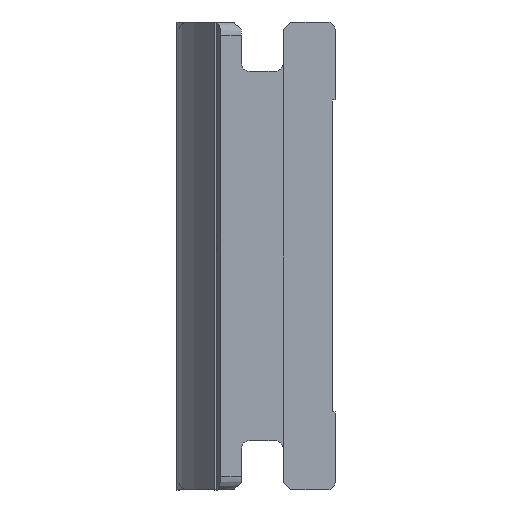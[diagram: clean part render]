
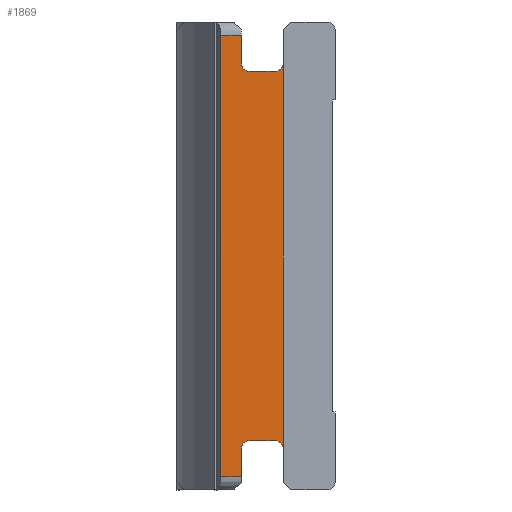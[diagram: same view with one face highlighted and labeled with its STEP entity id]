
A CAD part, left-side view. The second image highlights one B-rep face of the part: STEP entity #1869.
In plain terms, the highlighted planar face has unit normal (-1, 0, 0).
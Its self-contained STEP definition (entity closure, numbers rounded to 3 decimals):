
#16 = AXIS2_PLACEMENT_3D ( 'NONE', #1744, #693, #1716 ) ;
#27 = DIRECTION ( 'NONE',  ( 0., 1., 0. ) ) ;
#46 = CARTESIAN_POINT ( 'NONE',  ( 10., 3.2, 7.1 ) ) ;
#84 = DIRECTION ( 'NONE',  ( 0., 0., 1. ) ) ;
#89 = LINE ( 'NONE', #1562, #1750 ) ;
#90 = ORIENTED_EDGE ( 'NONE', *, *, #1871, .F. ) ;
#146 = LINE ( 'NONE', #441, #690 ) ;
#170 = ORIENTED_EDGE ( 'NONE', *, *, #1586, .T. ) ;
#195 = CARTESIAN_POINT ( 'NONE',  ( 10., 3.5, 7.4 ) ) ;
#203 = VERTEX_POINT ( 'NONE', #1695 ) ;
#237 = EDGE_CURVE ( 'NONE', #538, #317, #527, .T. ) ;
#238 = CARTESIAN_POINT ( 'NONE',  ( 10., 2.2, -7.4 ) ) ;
#248 = VECTOR ( 'NONE', #1691, 1000. ) ;
#250 = FACE_OUTER_BOUND ( 'NONE', #1356, .T. ) ;
#317 = VERTEX_POINT ( 'NONE', #195 ) ;
#351 = CARTESIAN_POINT ( 'NONE',  ( 10., 3.2, -7.4 ) ) ;
#374 = EDGE_CURVE ( 'NONE', #1329, #1830, #832, .T. ) ;
#388 = VERTEX_POINT ( 'NONE', #46 ) ;
#441 = CARTESIAN_POINT ( 'NONE',  ( 10., 3.2, -7.1 ) ) ;
#466 = LINE ( 'NONE', #613, #1174 ) ;
#503 = VECTOR ( 'NONE', #1572, 1000. ) ;
#527 = LINE ( 'NONE', #1715, #711 ) ;
#538 = VERTEX_POINT ( 'NONE', #1416 ) ;
#586 = ORIENTED_EDGE ( 'NONE', *, *, #1627, .F. ) ;
#599 = EDGE_CURVE ( 'NONE', #1292, #857, #1071, .T. ) ;
#613 = CARTESIAN_POINT ( 'NONE',  ( 10., 1.9, -8.5 ) ) ;
#626 = ORIENTED_EDGE ( 'NONE', *, *, #237, .F. ) ;
#627 = EDGE_CURVE ( 'NONE', #388, #1292, #1725, .T. ) ;
#651 = AXIS2_PLACEMENT_3D ( 'NONE', #238, #1374, #1352 ) ;
#659 = EDGE_CURVE ( 'NONE', #857, #1329, #89, .T. ) ;
#678 = PLANE ( 'NONE',  #1733 ) ;
#690 = VECTOR ( 'NONE', #27, 1000. ) ;
#693 = DIRECTION ( 'NONE',  ( -1., 0., 0. ) ) ;
#702 = DIRECTION ( 'NONE',  ( 0., 0., -1. ) ) ;
#711 = VECTOR ( 'NONE', #702, 1000. ) ;
#727 = AXIS2_PLACEMENT_3D ( 'NONE', #1072, #800, #1385 ) ;
#731 = ORIENTED_EDGE ( 'NONE', *, *, #1176, .F. ) ;
#754 = CARTESIAN_POINT ( 'NONE',  ( 10., 4.3, 8.5 ) ) ;
#755 = CARTESIAN_POINT ( 'NONE',  ( 10., 3.5, -8.7 ) ) ;
#783 = CIRCLE ( 'NONE', #1671, 0.3 ) ;
#791 = CARTESIAN_POINT ( 'NONE',  ( 10., 1.9, -29.536 ) ) ;
#800 = DIRECTION ( 'NONE',  ( -1., 0., 0. ) ) ;
#827 = CARTESIAN_POINT ( 'NONE',  ( 10., 4.3, -8.5 ) ) ;
#832 = CIRCLE ( 'NONE', #651, 0.3 ) ;
#841 = VERTEX_POINT ( 'NONE', #1772 ) ;
#857 = VERTEX_POINT ( 'NONE', #1332 ) ;
#893 = LINE ( 'NONE', #755, #1350 ) ;
#942 = ORIENTED_EDGE ( 'NONE', *, *, #1860, .T. ) ;
#949 = DIRECTION ( 'NONE',  ( 0., 0., -1. ) ) ;
#960 = CARTESIAN_POINT ( 'NONE',  ( 10., 1.9, 8.5 ) ) ;
#964 = ORIENTED_EDGE ( 'NONE', *, *, #374, .F. ) ;
#984 = CARTESIAN_POINT ( 'NONE',  ( 10., 3.2, 7.1 ) ) ;
#1008 = VERTEX_POINT ( 'NONE', #827 ) ;
#1037 = DIRECTION ( 'NONE',  ( 0., -1., 0. ) ) ;
#1055 = DIRECTION ( 'NONE',  ( -1., 0., 0. ) ) ;
#1066 = ORIENTED_EDGE ( 'NONE', *, *, #599, .F. ) ;
#1071 = CIRCLE ( 'NONE', #16, 0.3 ) ;
#1072 = CARTESIAN_POINT ( 'NONE',  ( 10., 3.2, 7.4 ) ) ;
#1090 = DIRECTION ( 'NONE',  ( 0., 0., -1. ) ) ;
#1094 = CARTESIAN_POINT ( 'NONE',  ( 10., 3.5, -7.4 ) ) ;
#1118 = CARTESIAN_POINT ( 'NONE',  ( 10., 1.9, -7.4 ) ) ;
#1174 = VECTOR ( 'NONE', #1037, 1000. ) ;
#1176 = EDGE_CURVE ( 'NONE', #1830, #841, #146, .T. ) ;
#1187 = DIRECTION ( 'NONE',  ( 0., 0., -1. ) ) ;
#1215 = EDGE_CURVE ( 'NONE', #1331, #203, #893, .T. ) ;
#1255 = DIRECTION ( 'NONE',  ( 1., 0., 0. ) ) ;
#1263 = EDGE_CURVE ( 'NONE', #1008, #1519, #1622, .T. ) ;
#1283 = ORIENTED_EDGE ( 'NONE', *, *, #659, .F. ) ;
#1290 = ORIENTED_EDGE ( 'NONE', *, *, #1263, .F. ) ;
#1292 = VERTEX_POINT ( 'NONE', #1528 ) ;
#1316 = VECTOR ( 'NONE', #84, 1000. ) ;
#1329 = VERTEX_POINT ( 'NONE', #1118 ) ;
#1331 = VERTEX_POINT ( 'NONE', #1094 ) ;
#1332 = CARTESIAN_POINT ( 'NONE',  ( 10., 1.9, 7.4 ) ) ;
#1350 = VECTOR ( 'NONE', #1187, 1000. ) ;
#1352 = DIRECTION ( 'NONE',  ( 0., 0., -1. ) ) ;
#1356 = EDGE_LOOP ( 'NONE', ( #626, #942, #1290, #170, #1442, #586, #731, #964, #1283, #1066, #1851, #90 ) ) ;
#1374 = DIRECTION ( 'NONE',  ( -1., 0., 0. ) ) ;
#1385 = DIRECTION ( 'NONE',  ( 0., 0., -1. ) ) ;
#1396 = LINE ( 'NONE', #960, #248 ) ;
#1416 = CARTESIAN_POINT ( 'NONE',  ( 10., 3.5, 8.5 ) ) ;
#1442 = ORIENTED_EDGE ( 'NONE', *, *, #1215, .F. ) ;
#1505 = DIRECTION ( 'NONE',  ( 0., 0., -1. ) ) ;
#1514 = CIRCLE ( 'NONE', #727, 0.3 ) ;
#1516 = CARTESIAN_POINT ( 'NONE',  ( 10., 2.2, -7.1 ) ) ;
#1519 = VERTEX_POINT ( 'NONE', #754 ) ;
#1528 = CARTESIAN_POINT ( 'NONE',  ( 10., 2.2, 7.1 ) ) ;
#1562 = CARTESIAN_POINT ( 'NONE',  ( 10., 1.9, -29.536 ) ) ;
#1572 = DIRECTION ( 'NONE',  ( 0., -1., 0. ) ) ;
#1586 = EDGE_CURVE ( 'NONE', #1008, #203, #466, .T. ) ;
#1622 = LINE ( 'NONE', #1833, #1316 ) ;
#1627 = EDGE_CURVE ( 'NONE', #841, #1331, #783, .T. ) ;
#1671 = AXIS2_PLACEMENT_3D ( 'NONE', #351, #1055, #1505 ) ;
#1691 = DIRECTION ( 'NONE',  ( 0., 1., 0. ) ) ;
#1695 = CARTESIAN_POINT ( 'NONE',  ( 10., 3.5, -8.5 ) ) ;
#1715 = CARTESIAN_POINT ( 'NONE',  ( 10., 3.5, 8.7 ) ) ;
#1716 = DIRECTION ( 'NONE',  ( 0., 0., -1. ) ) ;
#1725 = LINE ( 'NONE', #984, #503 ) ;
#1733 = AXIS2_PLACEMENT_3D ( 'NONE', #791, #1255, #949 ) ;
#1744 = CARTESIAN_POINT ( 'NONE',  ( 10., 2.2, 7.4 ) ) ;
#1750 = VECTOR ( 'NONE', #1090, 1000. ) ;
#1772 = CARTESIAN_POINT ( 'NONE',  ( 10., 3.2, -7.1 ) ) ;
#1830 = VERTEX_POINT ( 'NONE', #1516 ) ;
#1833 = CARTESIAN_POINT ( 'NONE',  ( 10., 4.3, -29.536 ) ) ;
#1851 = ORIENTED_EDGE ( 'NONE', *, *, #627, .F. ) ;
#1860 = EDGE_CURVE ( 'NONE', #538, #1519, #1396, .T. ) ;
#1869 = ADVANCED_FACE ( 'NONE', ( #250 ), #678, .F. ) ;
#1871 = EDGE_CURVE ( 'NONE', #317, #388, #1514, .T. ) ;
